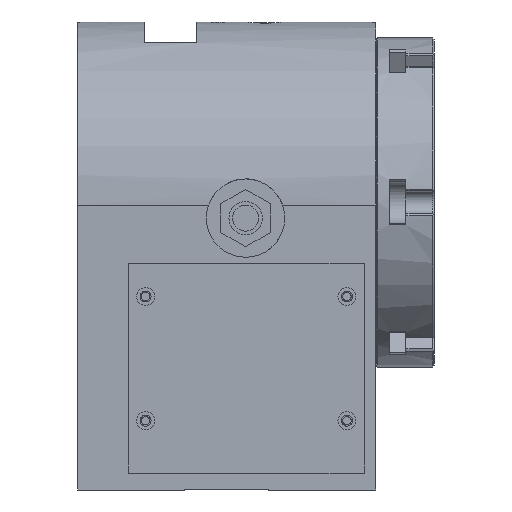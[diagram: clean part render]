
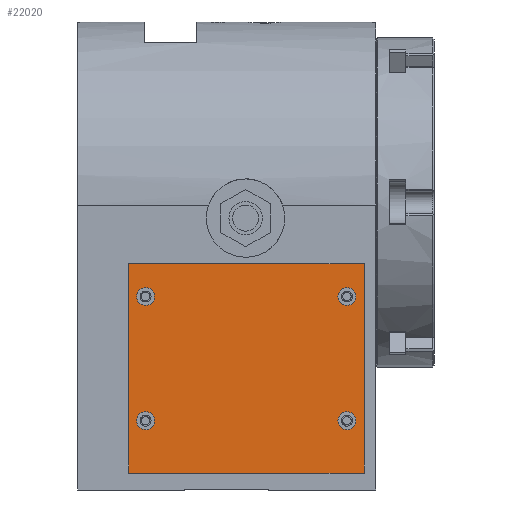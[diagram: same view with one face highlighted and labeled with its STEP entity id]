
A CAD part, left-side view. The second image highlights one B-rep face of the part: STEP entity #22020.
In plain terms, the highlighted planar face has unit normal (-1, 0, 0) as drawn and (0, 0, 1) by its records, which use the part's own axes.
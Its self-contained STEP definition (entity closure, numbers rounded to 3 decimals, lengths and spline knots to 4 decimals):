
#643=FACE_BOUND('',#5101,.T.);
#644=FACE_BOUND('',#5102,.T.);
#645=FACE_BOUND('',#5103,.T.);
#646=FACE_BOUND('',#5104,.T.);
#2049=CIRCLE('',#23975,0.1715);
#2052=CIRCLE('',#23980,0.1715);
#2055=CIRCLE('',#23985,0.1715);
#2058=CIRCLE('',#23990,0.1715);
#3594=FACE_OUTER_BOUND('',#5100,.T.);
#5100=EDGE_LOOP('',(#20036,#20037,#20038,#20039));
#5101=EDGE_LOOP('',(#20040));
#5102=EDGE_LOOP('',(#20041));
#5103=EDGE_LOOP('',(#20042));
#5104=EDGE_LOOP('',(#20043));
#6922=LINE('',#54649,#8743);
#6925=LINE('',#54655,#8746);
#6928=LINE('',#54661,#8749);
#6931=LINE('',#54665,#8752);
#8743=VECTOR('',#29465,0.3937);
#8746=VECTOR('',#29470,0.3937);
#8749=VECTOR('',#29475,0.3937);
#8752=VECTOR('',#29480,0.3937);
#10769=VERTEX_POINT('',#54591);
#10772=VERTEX_POINT('',#54600);
#10775=VERTEX_POINT('',#54609);
#10778=VERTEX_POINT('',#54618);
#10787=VERTEX_POINT('',#54646);
#10788=VERTEX_POINT('',#54648);
#10790=VERTEX_POINT('',#54654);
#10792=VERTEX_POINT('',#54660);
#13846=EDGE_CURVE('',#10769,#10769,#2049,.T.);
#13850=EDGE_CURVE('',#10772,#10772,#2052,.T.);
#13854=EDGE_CURVE('',#10775,#10775,#2055,.T.);
#13858=EDGE_CURVE('',#10778,#10778,#2058,.T.);
#13872=EDGE_CURVE('',#10788,#10787,#6922,.T.);
#13875=EDGE_CURVE('',#10790,#10788,#6925,.T.);
#13878=EDGE_CURVE('',#10792,#10790,#6928,.T.);
#13881=EDGE_CURVE('',#10787,#10792,#6931,.T.);
#20036=ORIENTED_EDGE('',*,*,#13881,.T.);
#20037=ORIENTED_EDGE('',*,*,#13878,.T.);
#20038=ORIENTED_EDGE('',*,*,#13875,.T.);
#20039=ORIENTED_EDGE('',*,*,#13872,.T.);
#20040=ORIENTED_EDGE('',*,*,#13846,.T.);
#20041=ORIENTED_EDGE('',*,*,#13850,.T.);
#20042=ORIENTED_EDGE('',*,*,#13854,.T.);
#20043=ORIENTED_EDGE('',*,*,#13858,.T.);
#20743=PLANE('',#24006);
#22020=ADVANCED_FACE('',(#3594,#643,#644,#645,#646),#20743,.T.);
#23975=AXIS2_PLACEMENT_3D('',#54592,#29399,#29400);
#23980=AXIS2_PLACEMENT_3D('',#54601,#29410,#29411);
#23985=AXIS2_PLACEMENT_3D('',#54610,#29421,#29422);
#23990=AXIS2_PLACEMENT_3D('',#54619,#29432,#29433);
#24006=AXIS2_PLACEMENT_3D('',#54666,#29481,#29482);
#29399=DIRECTION('center_axis',(0.,0.,-1.));
#29400=DIRECTION('ref_axis',(-1.,0.,0.));
#29410=DIRECTION('center_axis',(0.,0.,-1.));
#29411=DIRECTION('ref_axis',(-1.,0.,0.));
#29421=DIRECTION('center_axis',(0.,0.,-1.));
#29422=DIRECTION('ref_axis',(-1.,0.,0.));
#29432=DIRECTION('center_axis',(0.,0.,-1.));
#29433=DIRECTION('ref_axis',(-1.,0.,0.));
#29465=DIRECTION('',(1.,0.,0.));
#29470=DIRECTION('',(0.,-1.,0.));
#29475=DIRECTION('',(-1.,0.,0.));
#29480=DIRECTION('',(0.,1.,0.));
#29481=DIRECTION('center_axis',(0.,0.,1.));
#29482=DIRECTION('ref_axis',(1.,0.,0.));
#54591=CARTESIAN_POINT('',(2.0935,1.375,0.375));
#54592=CARTESIAN_POINT('Origin',(1.922,1.375,0.375));
#54600=CARTESIAN_POINT('',(2.0935,-1.,0.375));
#54601=CARTESIAN_POINT('Origin',(1.922,-1.,0.375));
#54609=CARTESIAN_POINT('',(-1.7565,1.375,0.375));
#54610=CARTESIAN_POINT('Origin',(-1.928,1.375,0.375));
#54618=CARTESIAN_POINT('',(-1.7565,-1.,0.375));
#54619=CARTESIAN_POINT('Origin',(-1.928,-1.,0.375));
#54646=CARTESIAN_POINT('',(2.25,-2.,0.375));
#54648=CARTESIAN_POINT('',(-2.25,-2.,0.375));
#54649=CARTESIAN_POINT('',(-2.25,-2.,0.375));
#54654=CARTESIAN_POINT('',(-2.25,2.,0.375));
#54655=CARTESIAN_POINT('',(-2.25,2.,0.375));
#54660=CARTESIAN_POINT('',(2.25,2.,0.375));
#54661=CARTESIAN_POINT('',(2.25,2.,0.375));
#54665=CARTESIAN_POINT('',(2.25,-2.,0.375));
#54666=CARTESIAN_POINT('Origin',(0.,0.,0.375));
